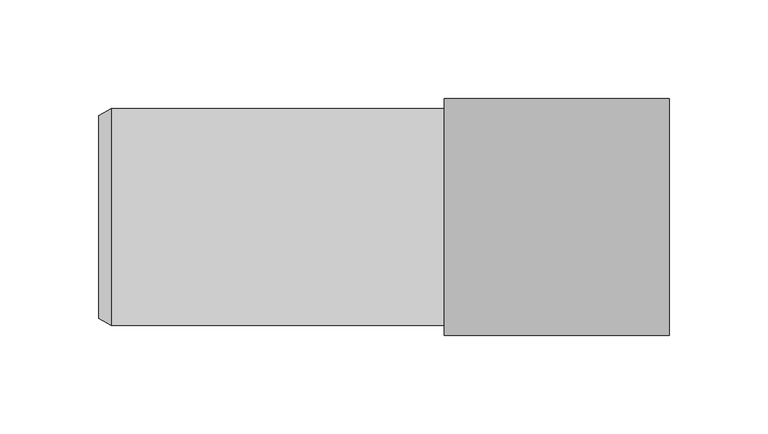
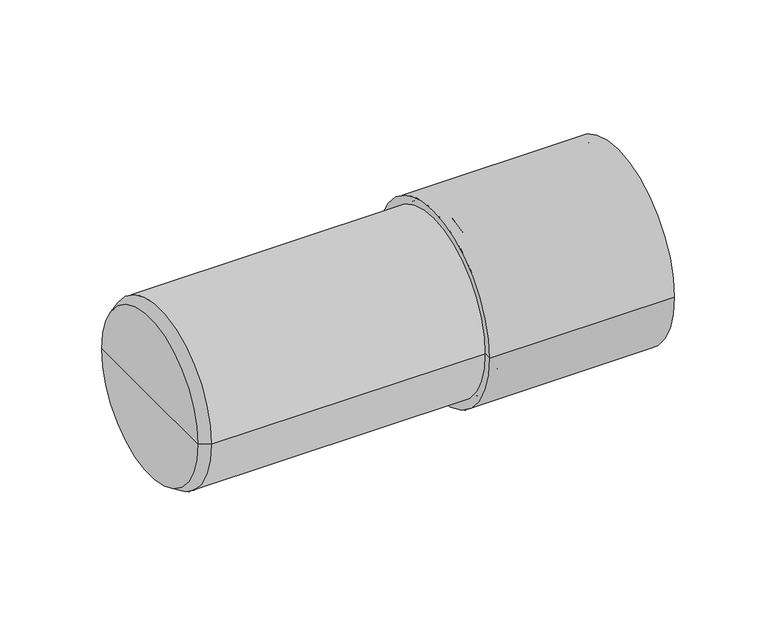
"""IFC4 building model written with IfcOpenShell, lengths in millimetres: pipe fitting geometry, NLRS_52_PIF_UN_Geberit Silent-PP aansluitstuk voor wc_PRO_101526 : DN100-100 / d110-110 - OD."""

from ifc_helpers import new_model, si_unit, point, frame, origin, place, context, project, spatial, polyline, circle_curve, ellipse_curve, trimmed, source, transform, mapped, element, save
from ifc_brep_helpers import plane_surface, cylinder_surface, revolved_surface, advanced_brep


def pipe_fitting_612d7fab(model_context):
    return source(origin(), model_context, "Body", "AdvancedBrep", [
        advanced_brep(
        [(3.6, 55.0, 0.0), (3.6, -55.0, 0.0), (0.0, -55.0, 0.0), (0.0, 55.0, 0.0)],
        [
            (0, 1, circle_curve(frame((3.6, 0.0, 0.0), z_axis=(-1.0, 0.0, 0.0), x_axis=(0.0, -1.0000000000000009, 0.0)), 55.0)),
            (1, 2, circle_curve(frame((1.8, -55.0, 0.0), z_axis=(0.0, 0.0, -1.0000000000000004), x_axis=(-1.0000000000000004, 0.0, 0.0)), 1.8)),
            (2, 3, circle_curve(frame((0.0, 0.0, 0.0), z_axis=(1.0, 0.0, 0.0), x_axis=(0.0, -1.0000000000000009, 0.0)), 55.0)),
            (3, 0, circle_curve(frame((1.8, 55.0, 0.0), z_axis=(0.0, 0.0, -1.0000000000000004), x_axis=(-1.0000000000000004, 0.0, 0.0)), 1.8)),
            (1, 0, circle_curve(frame((3.6, 0.0, 0.0), z_axis=(-1.0, 0.0, 0.0), x_axis=(0.0, -1.0000000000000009, 0.0)), 55.0)),
            (3, 2, circle_curve(frame((0.0, 0.0, 0.0), z_axis=(1.0, 0.0, 0.0), x_axis=(0.0, -1.0000000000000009, 0.0)), 55.0)),
            (2, 1),
            (0, 3),
        ],
        [
            revolved_surface(trimmed(ellipse_curve(frame((1.8, -55.0, 0.0), z_axis=(0.0, 0.0, 1.0000000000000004), x_axis=(-1.0000000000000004, 0.0, 0.0)), 1.8, 1.8), [point((0.0, -55.0, 0.0))], [point((3.6, -55.0, 0.0))], True, "CARTESIAN"), (11.6090619, 0.0, 0.0), (1.0000000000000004, 0.0, 0.0)),
            revolved_surface(polyline([(3.5999999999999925, -55.00000000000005, 0.0), (-1.0658141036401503e-14, -55.00000000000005, 0.0)]), (11.6090619, 0.0, 0.0), (1.0000000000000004, 0.0, 0.0)),
        ],
        [
            (0, [[1, 2, 3, 4]]),
            (0, [[5, -4, 6, -2]]),
            (1, [[-3, 7, -1, 8]]),
            (1, [[-6, -8, -5, -7]]),
        ],
    ),
        advanced_brep(
        [(-180.0, 51.4, 0.0), (-180.0, -51.4, 0.0), (-180.0, 0.0, 0.0), (-173.7646171, 55.0, 0.0), (-173.7646171, -55.0, 0.0), (0.0, 55.0, 0.0), (0.0, -55.0, 0.0), (0.0, 0.0, 0.0)],
        [
            (0, 1, circle_curve(frame((-180.0, 0.0, 0.0), z_axis=(-1.0, 0.0, 0.0), x_axis=(0.0, -1.0000000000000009, 0.0)), 51.4)),
            (1, 2),
            (2, 0),
            (1, 0, circle_curve(frame((-180.0, 0.0, 0.0), z_axis=(-1.0, 0.0, 0.0), x_axis=(0.0, -1.0000000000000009, 0.0)), 51.4)),
            (3, 4, circle_curve(frame((-173.7646171, 0.0, 0.0), z_axis=(-1.0, 0.0, 0.0), x_axis=(0.0, -1.0000000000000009, 0.0)), 55.0)),
            (4, 1),
            (0, 3),
            (4, 3, circle_curve(frame((-173.7646171, 0.0, 0.0), z_axis=(-1.0, 0.0, 0.0), x_axis=(0.0, -1.0000000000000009, 0.0)), 55.0)),
            (5, 6, circle_curve(frame((0.0, 0.0, 0.0), z_axis=(-1.0, 0.0, 0.0), x_axis=(0.0, -1.0000000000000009, 0.0)), 55.0)),
            (6, 4),
            (3, 5),
            (6, 5, circle_curve(frame((0.0, 0.0, 0.0), z_axis=(-1.0, 0.0, 0.0), x_axis=(0.0, -1.0000000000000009, 0.0)), 55.0)),
            (7, 6),
            (5, 7),
        ],
        [
            plane_surface(frame((-180.0, 0.0, 0.0), z_axis=(-1.0, 0.0, 0.0), x_axis=(0.0, -1.0, 0.0))),
            revolved_surface(polyline([(-180.0, -51.4, 0.0), (-173.7646171, -55.0, 0.0)]), (-195.0, 0.0, 0.0), (1.0000000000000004, 0.0, 0.0)),
            cylinder_surface(frame((-195.0, 0.0, 0.0), z_axis=(1.0000000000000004, 0.0, 0.0), x_axis=(0.0, -1.0000000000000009, 0.0)), 55.0),
            plane_surface(frame((0.0, 0.0, 0.0), z_axis=(1.0, 0.0, 0.0), x_axis=(0.0, -1.0, 0.0))),
        ],
        [
            (0, [[1, 2, 3]]),
            (0, [[4, -3, -2]]),
            (1, [[5, 6, -1, 7]]),
            (1, [[8, -7, -4, -6]]),
            (2, [[9, 10, -5, 11]]),
            (2, [[12, -11, -8, -10]]),
            (3, [[13, -9, 14]]),
            (3, [[-14, -12, -13]]),
        ],
    ),
        advanced_brep(
        [(0.0, -55.0, 0.0), (0.0, 55.0, 0.0), (0.0, 0.0, 0.0), (109.0, -55.0, 0.0), (109.0, 55.0, 0.0), (109.0, -60.0, 0.0), (109.0, 60.0, 0.0), (-5.0, -60.0, 0.0), (-5.0, 60.0, 0.0), (-5.0, 0.0, 0.0)],
        [
            (0, 1, circle_curve(frame((0.0, 0.0, 0.0), z_axis=(1.0, 0.0, 0.0), x_axis=(0.0, 1.0, 0.0)), 55.0)),
            (1, 2),
            (2, 0),
            (1, 0, circle_curve(frame((0.0, 0.0, 0.0), z_axis=(1.0, 0.0, 0.0), x_axis=(0.0, 1.0, 0.0)), 55.0)),
            (3, 4, circle_curve(frame((109.0, 0.0, 0.0), z_axis=(1.0, 0.0, 0.0), x_axis=(0.0, 1.0, 0.0)), 55.0)),
            (4, 1),
            (0, 3),
            (4, 3, circle_curve(frame((109.0, 0.0, 0.0), z_axis=(1.0, 0.0, 0.0), x_axis=(0.0, 1.0, 0.0)), 55.0)),
            (5, 6, circle_curve(frame((109.0, 0.0, 0.0), z_axis=(1.0, 0.0, 0.0), x_axis=(0.0, 1.0, 0.0)), 60.0)),
            (6, 4),
            (3, 5),
            (6, 5, circle_curve(frame((109.0, 0.0, 0.0), z_axis=(1.0, 0.0, 0.0), x_axis=(0.0, 1.0, 0.0)), 60.0)),
            (7, 8, circle_curve(frame((-5.0, 0.0, 0.0), z_axis=(1.0, 0.0, 0.0), x_axis=(0.0, 1.0, 0.0)), 60.0)),
            (8, 6),
            (5, 7),
            (8, 7, circle_curve(frame((-5.0, 0.0, 0.0), z_axis=(1.0, 0.0, 0.0), x_axis=(0.0, 1.0, 0.0)), 60.0)),
            (9, 8),
            (7, 9),
        ],
        [
            plane_surface(frame((0.0, 0.0, 0.0), z_axis=(1.0, 0.0, 0.0), x_axis=(0.0, 1.0, 0.0))),
            revolved_surface(polyline([(0.0, 55.0, 0.0), (109.0, 55.0, 0.0)]), (-25.0, 0.0, 0.0), (-1.0, 0.0, 0.0)),
            plane_surface(frame((109.0, 0.0, 0.0), z_axis=(1.0, 0.0, 0.0), x_axis=(0.0, 1.0, 0.0))),
            cylinder_surface(frame((-25.0, 0.0, 0.0), z_axis=(-1.0, 0.0, 0.0), x_axis=(0.0, 1.0, 0.0)), 60.0),
            plane_surface(frame((-5.0, 0.0, 0.0), z_axis=(-1.0, 0.0, 0.0), x_axis=(0.0, 1.0, 0.0))),
        ],
        [
            (0, [[1, 2, 3]]),
            (0, [[4, -3, -2]]),
            (1, [[5, 6, -1, 7]]),
            (1, [[8, -7, -4, -6]]),
            (2, [[9, 10, -5, 11]]),
            (2, [[12, -11, -8, -10]]),
            (3, [[13, 14, -9, 15]]),
            (3, [[16, -15, -12, -14]]),
            (4, [[17, -13, 18]]),
            (4, [[-18, -16, -17]]),
        ],
    ),
    ])


if __name__ == "__main__":
    model = new_model("IFC4")
    model_context = context("Model", 3, world=origin())
    ifc_project = project(units=[si_unit("LENGTHUNIT", "METRE", prefix="MILLI")], contexts=[model_context])
    site = spatial("IfcSite", under=ifc_project)
    building = spatial("IfcBuilding", under=site)
    placement = place(None, origin())
    pipe_fitting_shape = pipe_fitting_612d7fab(model_context)
    element("IfcPipeFitting", 1, ObjectType="NLRS_52_PIF_UN_Geberit Silent-PP aansluitstuk voor wc_PRO_101526 : DN100-100 / d110-110 - OD", at=placement, inside=building, context=model_context, shape_type="MappedRepresentation", body=[
        mapped(pipe_fitting_shape, transform((0.0, 0.0, 0.0), x_axis=(1.0, 0.0, 0.0), y_axis=(0.0, 1.0, 0.0), z_axis=(0.0, 0.0, 1.0))),
    ])
    save(model, "model.ifc")
